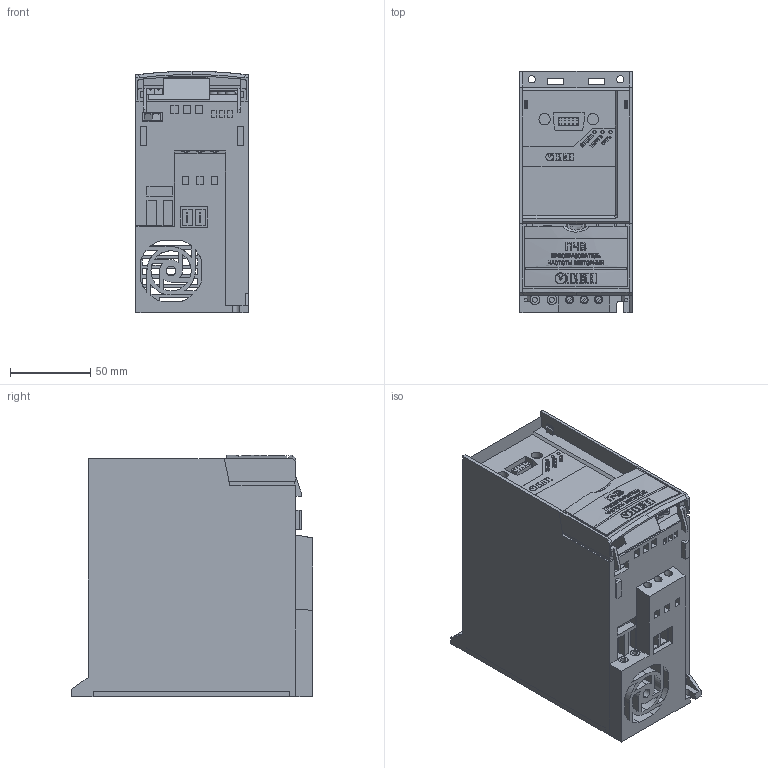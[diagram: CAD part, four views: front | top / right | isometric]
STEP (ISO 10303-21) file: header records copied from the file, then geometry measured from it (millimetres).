
FILE_DESCRIPTION (( 'STEP AP214' ), '1' );
FILE_NAME ('3D 沓麧錪 瓬獷01.STEP', '2016-05-19T07:14:55', ( '' ), ( '' ), 'SwSTEP 2.0', 'SolidWorks 2014', '' );
FILE_SCHEMA (( 'AUTOMOTIVE_DESIGN' ));
Length unit declared in the file: millimetre
Products named in the file (7): hex bolt gradec_din_ISO 4016 - M6 x 30 x 18-WN; 瓬謬01_膰豵鵨_min; 3D 沓麧錪 瓬獷01; Êëåììà_10õ13õ5ìì ÷åðí min; 抔樦憵 SMKDS 1-12-3,5_min; Êðûøêà Ï×Â; curved spring lock washer 2_din_DIN 6904-5.4-FSt
Assembly tree (8 placements, depth 2):
  3D 沓麧錪 瓬獷01
    瓬謬01_膰豵鵨_min
    hex bolt gradec_din_ISO 4016 - M6 x 30 x 18-WN
    curved spring lock washer 2_din_DIN 6904-5.4-FSt
    Êðûøêà Ï×Â
    抔樦憵 SMKDS 1-12-3,5_min
    Êëåììà_10õ13õ5ìì ÷åðí min  x3
Bounding box: 70 x 150 x 150 mm (x, y, z)
Volume: 1143520.7 mm3; surface area: 205084.8 mm2
Topology: 11 solids, 11 shells, 2006 faces, 5249 edges, 3455 vertices
Faces by surface type: plane 1448, cylinder 289, bspline 258, cone 11
Entity records: 98761 total; most frequent: CARTESIAN_POINT 37944, ORIENTED_EDGE 10178, DIRECTION 8547, EDGE_CURVE 5089, VECTOR 3381, LINE 3381, VERTEX_POINT 3351, AXIS2_PLACEMENT_3D 2583
